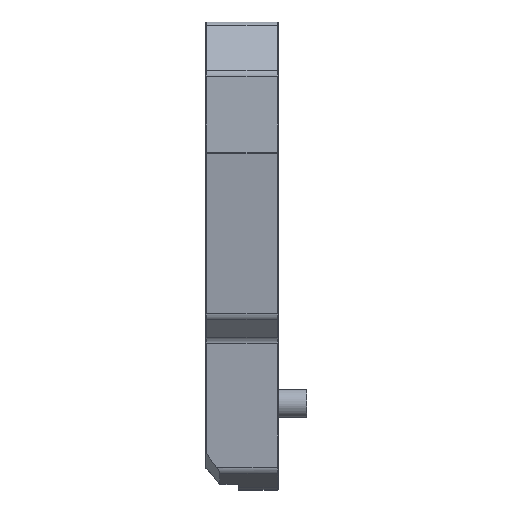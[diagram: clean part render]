
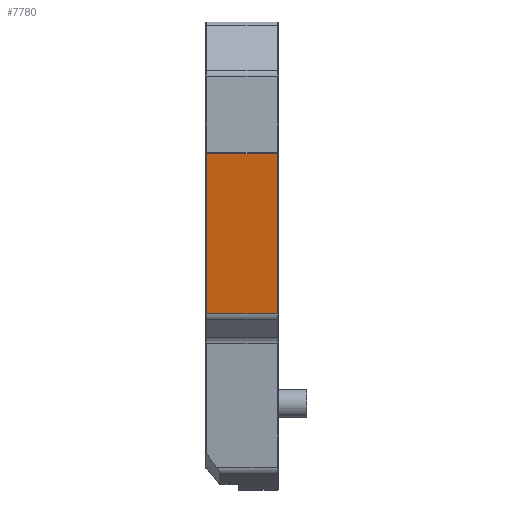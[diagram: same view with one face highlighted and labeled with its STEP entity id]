
A CAD part, top view. The second image highlights one B-rep face of the part: STEP entity #7780.
In plain terms, the highlighted planar face has unit normal (0, -0.141, 0.99).
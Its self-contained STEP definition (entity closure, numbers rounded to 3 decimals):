
#183=PLANE('',#8556);
#554=LINE('',#12822,#1193);
#628=LINE('',#13100,#1267);
#629=LINE('',#13104,#1268);
#630=LINE('',#13105,#1269);
#1193=VECTOR('',#9808,10.);
#1267=VECTOR('',#10138,10.);
#1268=VECTOR('',#10143,10.);
#1269=VECTOR('',#10144,10.);
#1939=FACE_OUTER_BOUND('',#2416,.T.);
#2416=EDGE_LOOP('',(#6206,#6207,#6208,#6209));
#3640=VERTEX_POINT('',#12816);
#3641=VERTEX_POINT('',#12820);
#3717=VERTEX_POINT('',#13099);
#3718=VERTEX_POINT('',#13103);
#4504=EDGE_CURVE('',#3640,#3641,#554,.T.);
#4643=EDGE_CURVE('',#3641,#3717,#628,.T.);
#4645=EDGE_CURVE('',#3718,#3640,#629,.T.);
#4646=EDGE_CURVE('',#3717,#3718,#630,.T.);
#6206=ORIENTED_EDGE('',*,*,#4504,.F.);
#6207=ORIENTED_EDGE('',*,*,#4645,.F.);
#6208=ORIENTED_EDGE('',*,*,#4646,.F.);
#6209=ORIENTED_EDGE('',*,*,#4643,.F.);
#7780=ADVANCED_FACE('',(#1939),#183,.T.);
#8556=AXIS2_PLACEMENT_3D('',#13102,#10141,#10142);
#9808=DIRECTION('',(0.,-0.99,-0.141));
#10138=DIRECTION('',(-1.,0.,0.));
#10141=DIRECTION('center_axis',(0.,-0.141,0.99));
#10142=DIRECTION('ref_axis',(0.,-0.99,-0.141));
#10143=DIRECTION('',(1.,0.,0.));
#10144=DIRECTION('',(0.,0.99,0.141));
#12816=CARTESIAN_POINT('',(7.55,-11.641,41.98));
#12820=CARTESIAN_POINT('',(7.55,-45.868,37.09));
#12822=CARTESIAN_POINT('',(7.55,-25.22,40.04));
#13099=CARTESIAN_POINT('',(-7.55,-45.868,37.09));
#13100=CARTESIAN_POINT('',(0.,-45.868,37.09));
#13102=CARTESIAN_POINT('Origin',(0.,-11.5,42.));
#13103=CARTESIAN_POINT('',(-7.55,-11.641,41.98));
#13104=CARTESIAN_POINT('',(0.,-11.641,41.98));
#13105=CARTESIAN_POINT('',(-7.55,-25.22,40.04));
